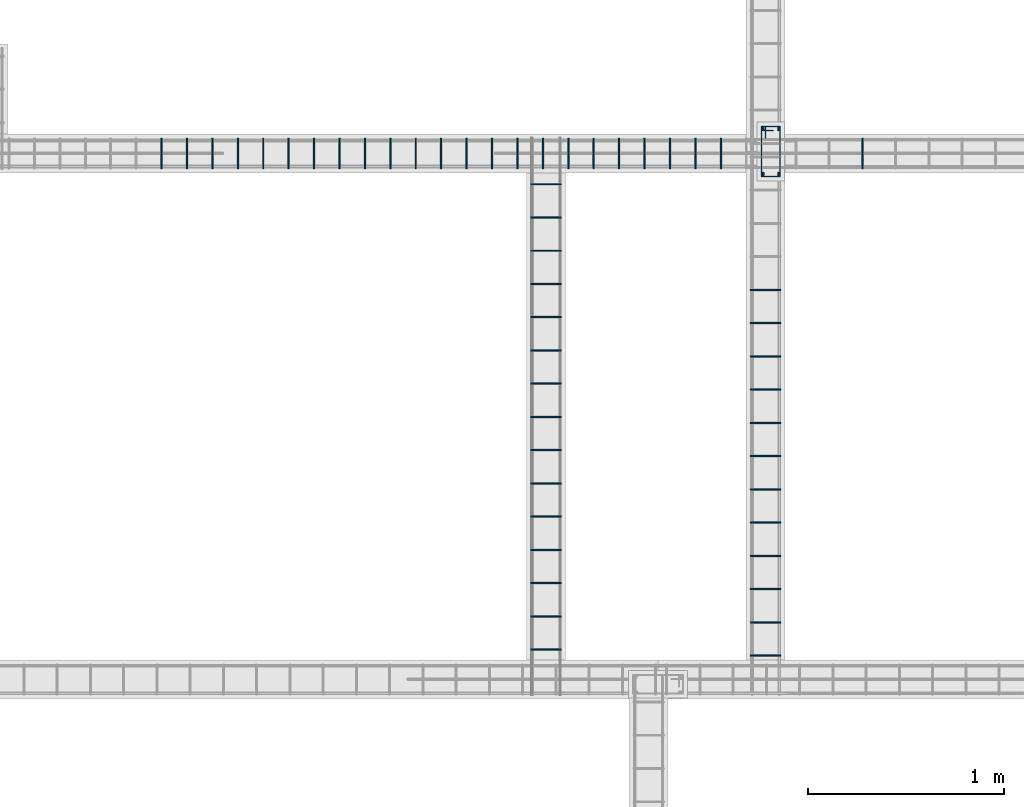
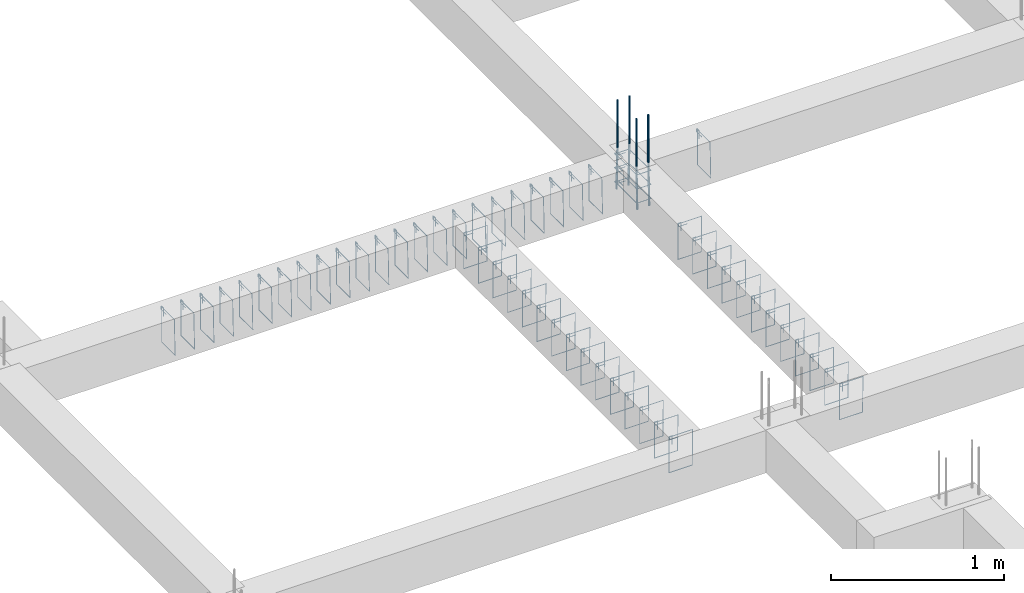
# One storey, part 118 of 150: 58 reinforcing bars.
"""IFC4 building model written with IfcOpenShell, lengths in centimetres."""

from ifc_helpers import new_model, entity, si_unit, derived_unit, frame, origin_with_axes, place, context, project, spatial, source, transform, mapped, element, save


model = new_model("IFC4")

# Units and contexts
model_context = context("Model", 3, precision=1e-05, world=origin_with_axes(), identifier="Body")
ifc_project = project(units=[si_unit("LENGTHUNIT", "METRE", prefix="CENTI"), si_unit("VOLUMEUNIT", "CUBIC_METRE"), si_unit("AREAUNIT", "SQUARE_METRE"), si_unit("POWERUNIT", "WATT"), si_unit("LUMINOUSFLUXUNIT", "LUMEN"), si_unit("ELECTRICCURRENTUNIT", "AMPERE"), si_unit("PRESSUREUNIT", "PASCAL", prefix="KILO"), si_unit("MASSUNIT", "GRAM", prefix="KILO"), si_unit("PLANEANGLEUNIT", "RADIAN"), derived_unit("VOLUMETRICFLOWRATEUNIT", [(si_unit("LENGTHUNIT", "METRE"), 3), (si_unit("TIMEUNIT", "SECOND"), -1)])], contexts=[model_context])

# Site, building, storey
site_placement = place(None, frame((-4000.0, 0.0, 0.0), z_axis=(0.0, 0.0, 1.0), x_axis=(1.0, 0.0, 0.0)))
site = spatial("IfcSite", under=ifc_project, at=site_placement, Name="PADRÃO")
building_placement = place(site_placement, frame((0.0, 0.0, -14.0)))
building = spatial("IfcBuilding", under=site, at=building_placement, Name="CRECHE PRÉ-ESCOLA TIPO 2")
placement = place(building_placement, origin_with_axes())
storey_placement = place(placement, frame((0.0, 0.0, 30.0), z_axis=(0.0, 0.0, 1.0), x_axis=(1.0, 0.0, 0.0)))
storey = spatial("IfcBuildingStorey", under=building, at=storey_placement, Name="VIGA BALDRAME", CompositionType="ELEMENT", Elevation=16.0)

# Reinforcing bars
shared_shape_1 = source(origin_with_axes(), model_context, "Body", "AdvancedSweptSolid", [
    entity("IfcSweptDiskSolid", entity("IfcCompositeCurve", [entity("IfcCompositeCurveSegment", "CONTINUOUS", True, entity("IfcPolyline", [entity("IfcCartesianPoint", [4.25, 21.75, 0.0]), entity("IfcCartesianPoint", [4.25, 27.75, 0.0])])), entity("IfcCompositeCurveSegment", "CONTINUOUS", True, entity("IfcPolyline", [entity("IfcCartesianPoint", [4.25, 27.75, 0.0]), entity("IfcCartesianPoint", [2.25, 27.75, 0.0])])), entity("IfcCompositeCurveSegment", "CONTINUOUS", True, entity("IfcPolyline", [entity("IfcCartesianPoint", [2.25, 27.75, 0.0]), entity("IfcCartesianPoint", [2.25, 2.25, 0.0])])), entity("IfcCompositeCurveSegment", "CONTINUOUS", True, entity("IfcPolyline", [entity("IfcCartesianPoint", [2.25, 2.25, 0.0]), entity("IfcCartesianPoint", [11.75, 2.25, 0.0])])), entity("IfcCompositeCurveSegment", "CONTINUOUS", True, entity("IfcPolyline", [entity("IfcCartesianPoint", [11.75, 2.25, 0.0]), entity("IfcCartesianPoint", [11.75, 27.75, -0.5])])), entity("IfcCompositeCurveSegment", "CONTINUOUS", True, entity("IfcPolyline", [entity("IfcCartesianPoint", [11.75, 27.75, -0.5]), entity("IfcCartesianPoint", [2.25, 27.75, -0.5])])), entity("IfcCompositeCurveSegment", "CONTINUOUS", True, entity("IfcPolyline", [entity("IfcCartesianPoint", [2.25, 27.75, -0.5]), entity("IfcCartesianPoint", [2.25, 25.75, -0.5])])), entity("IfcCompositeCurveSegment", "CONTINUOUS", True, entity("IfcPolyline", [entity("IfcCartesianPoint", [2.25, 25.75, -0.5]), entity("IfcCartesianPoint", [8.25, 25.75, -0.5])]))], False), 0.25),
])
for number, where, z_axis, x_axis, name in (
    (1, (1111.72, 3455.0, -5.0), (0.0, 0.0, 1.0), (1.0, 0.0, 0.0), "P40 - Estribo"),
    (2, (1111.72, 3455.0, -25.0), (0.0, 0.0, 1.0), (1.0, 0.0, 0.0), "P40 - Estribo"),
    (3, (1111.72, 3455.0, -15.0), (0.0, 0.0, 1.0), (1.0, 0.0, 0.0), "P40 - Estribo"),
):
    element("IfcReinforcingBar", number, at=place(storey_placement, frame(where, z_axis=z_axis, x_axis=x_axis)), inside=storey, Name=name, BarLength=0.0, CrossSectionArea=1.9634954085e-05, NominalDiameter=0.5, PredefinedType="MAIN", context=model_context, shape_type="MappedRepresentation", body=[
        mapped(shared_shape_1, transform((0.0, 0.0, 0.0), scale=1.0)),
    ])
shared_shape_2 = source(origin_with_axes(), model_context, "Body", "AdvancedSweptSolid", [
    entity("IfcSweptDiskSolid", entity("IfcCompositeCurve", [entity("IfcCompositeCurveSegment", "CONTINUOUS", True, entity("IfcPolyline", [entity("IfcCartesianPoint", [2.0, -6.0, 0.0]), entity("IfcCartesianPoint", [2.0, 0.0, 0.0])])), entity("IfcCompositeCurveSegment", "CONTINUOUS", True, entity("IfcPolyline", [entity("IfcCartesianPoint", [2.0, 0.0, 0.0]), entity("IfcCartesianPoint", [0.0, 0.0, 0.0])])), entity("IfcCompositeCurveSegment", "CONTINUOUS", True, entity("IfcPolyline", [entity("IfcCartesianPoint", [0.0, 0.0, 0.0]), entity("IfcCartesianPoint", [0.0, -25.5, 0.0])])), entity("IfcCompositeCurveSegment", "CONTINUOUS", True, entity("IfcPolyline", [entity("IfcCartesianPoint", [0.0, -25.5, 0.0]), entity("IfcCartesianPoint", [15.5, -25.5, 0.0])])), entity("IfcCompositeCurveSegment", "CONTINUOUS", True, entity("IfcPolyline", [entity("IfcCartesianPoint", [15.5, -25.5, 0.0]), entity("IfcCartesianPoint", [15.5, 0.0, 0.5])])), entity("IfcCompositeCurveSegment", "CONTINUOUS", True, entity("IfcPolyline", [entity("IfcCartesianPoint", [15.5, 0.0, 0.5]), entity("IfcCartesianPoint", [0.0, 0.0, 0.5])])), entity("IfcCompositeCurveSegment", "CONTINUOUS", True, entity("IfcPolyline", [entity("IfcCartesianPoint", [0.0, 0.0, 0.5]), entity("IfcCartesianPoint", [0.0, -2.0, 0.5])])), entity("IfcCompositeCurveSegment", "CONTINUOUS", True, entity("IfcPolyline", [entity("IfcCartesianPoint", [0.0, -2.0, 0.5]), entity("IfcCartesianPoint", [6.0, -2.0, 0.5])]))], False), 0.25),
])
for number, where, z_axis, x_axis, name in (
    (4, (995.98, 3215.51, -2.25), (0.0, -1.0, 0.0), (1.0, 0.0, 0.0), "V179 - Estribo"),
    (5, (995.98, 3249.51, -2.25), (0.0, -1.0, 0.0), (1.0, 0.0, 0.0), "V179 - Estribo"),
    (6, (995.98, 3453.51, -2.25), (0.0, -1.0, 0.0), (1.0, 0.0, 0.0), "V179 - Estribo"),
    (7, (995.98, 3436.51, -2.25), (0.0, -1.0, 0.0), (1.0, 0.0, 0.0), "V179 - Estribo"),
    (8, (995.98, 3419.51, -2.25), (0.0, -1.0, 0.0), (1.0, 0.0, 0.0), "V179 - Estribo"),
    (9, (995.98, 3402.51, -2.25), (0.0, -1.0, 0.0), (1.0, 0.0, 0.0), "V179 - Estribo"),
    (10, (995.98, 3385.51, -2.25), (0.0, -1.0, 0.0), (1.0, 0.0, 0.0), "V179 - Estribo"),
    (11, (995.98, 3368.51, -2.25), (0.0, -1.0, 0.0), (1.0, 0.0, 0.0), "V179 - Estribo"),
    (12, (995.98, 3351.51, -2.25), (0.0, -1.0, 0.0), (1.0, 0.0, 0.0), "V179 - Estribo"),
    (13, (995.98, 3334.51, -2.25), (0.0, -1.0, 0.0), (1.0, 0.0, 0.0), "V179 - Estribo"),
    (14, (995.98, 3317.51, -2.25), (0.0, -1.0, 0.0), (1.0, 0.0, 0.0), "V179 - Estribo"),
    (15, (995.98, 3300.51, -2.25), (0.0, -1.0, 0.0), (1.0, 0.0, 0.0), "V179 - Estribo"),
    (16, (995.98, 3283.51, -2.25), (0.0, -1.0, 0.0), (1.0, 0.0, 0.0), "V179 - Estribo"),
    (17, (995.98, 3266.51, -2.25), (0.0, -1.0, 0.0), (1.0, 0.0, 0.0), "V179 - Estribo"),
    (18, (995.98, 3232.51, -2.25), (0.0, -1.0, 0.0), (1.0, 0.0, 0.0), "V179 - Estribo"),
):
    element("IfcReinforcingBar", number, at=place(storey_placement, frame(where, z_axis=z_axis, x_axis=x_axis)), inside=storey, Name=name, BarLength=0.0, CrossSectionArea=1.9634954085e-05, NominalDiameter=0.5, PredefinedType="MAIN", context=model_context, shape_type="MappedRepresentation", body=[
        mapped(shared_shape_2, transform((0.0, 0.0, 0.0), scale=1.0)),
    ])
shared_shape_3 = source(origin_with_axes(), model_context, "Body", "AdvancedSweptSolid", [
    entity("IfcSweptDiskSolid", entity("IfcCompositeCurve", [entity("IfcCompositeCurveSegment", "CONTINUOUS", True, entity("IfcPolyline", [entity("IfcCartesianPoint", [2.0, -6.0, 0.0]), entity("IfcCartesianPoint", [2.0, 0.0, 0.0])])), entity("IfcCompositeCurveSegment", "CONTINUOUS", True, entity("IfcPolyline", [entity("IfcCartesianPoint", [2.0, 0.0, 0.0]), entity("IfcCartesianPoint", [0.0, 0.0, 0.0])])), entity("IfcCompositeCurveSegment", "CONTINUOUS", True, entity("IfcPolyline", [entity("IfcCartesianPoint", [0.0, 0.0, 0.0]), entity("IfcCartesianPoint", [0.0, -25.5, 0.0])])), entity("IfcCompositeCurveSegment", "CONTINUOUS", True, entity("IfcPolyline", [entity("IfcCartesianPoint", [0.0, -25.5, 0.0]), entity("IfcCartesianPoint", [15.5, -25.5, 0.0])])), entity("IfcCompositeCurveSegment", "CONTINUOUS", True, entity("IfcPolyline", [entity("IfcCartesianPoint", [15.5, -25.5, 0.0]), entity("IfcCartesianPoint", [15.5, 0.0, 0.5])])), entity("IfcCompositeCurveSegment", "CONTINUOUS", True, entity("IfcPolyline", [entity("IfcCartesianPoint", [15.5, 0.0, 0.5]), entity("IfcCartesianPoint", [0.0, 0.0, 0.5])])), entity("IfcCompositeCurveSegment", "CONTINUOUS", True, entity("IfcPolyline", [entity("IfcCartesianPoint", [0.0, 0.0, 0.5]), entity("IfcCartesianPoint", [0.0, -2.0, 0.5])])), entity("IfcCompositeCurveSegment", "CONTINUOUS", True, entity("IfcPolyline", [entity("IfcCartesianPoint", [0.0, -2.0, 0.5]), entity("IfcCartesianPoint", [6.0, -2.0, 0.5])]))], False), 0.25),
])
for number, where, z_axis, x_axis, name in (
    (19, (1093.36, 3476.75, -2.25), (-1.0, 0.0, 0.0), (0.0, -1.0, 0.0), "V110 - Estribo"),
    (20, (1080.36, 3476.75, -2.25), (-1.0, 0.0, 0.0), (0.0, -1.0, 0.0), "V110 - Estribo"),
    (21, (1067.36, 3476.75, -2.25), (-1.0, 0.0, 0.0), (0.0, -1.0, 0.0), "V110 - Estribo"),
    (22, (1054.36, 3476.75, -2.25), (-1.0, 0.0, 0.0), (0.0, -1.0, 0.0), "V110 - Estribo"),
    (23, (1041.36, 3476.75, -2.25), (-1.0, 0.0, 0.0), (0.0, -1.0, 0.0), "V110 - Estribo"),
    (24, (1028.36, 3476.75, -2.25), (-1.0, 0.0, 0.0), (0.0, -1.0, 0.0), "V110 - Estribo"),
    (25, (1015.36, 3476.75, -2.25), (-1.0, 0.0, 0.0), (0.0, -1.0, 0.0), "V110 - Estribo"),
    (26, (1002.36, 3476.75, -2.25), (-1.0, 0.0, 0.0), (0.0, -1.0, 0.0), "V110 - Estribo"),
    (27, (989.36, 3476.75, -2.25), (-1.0, 0.0, 0.0), (0.0, -1.0, 0.0), "V110 - Estribo"),
    (28, (976.36, 3476.75, -2.25), (-1.0, 0.0, 0.0), (0.0, -1.0, 0.0), "V110 - Estribo"),
    (29, (963.36, 3476.75, -2.25), (-1.0, 0.0, 0.0), (0.0, -1.0, 0.0), "V110 - Estribo"),
    (30, (950.36, 3476.75, -2.25), (-1.0, 0.0, 0.0), (0.0, -1.0, 0.0), "V110 - Estribo"),
    (31, (937.36, 3476.75, -2.25), (-1.0, 0.0, 0.0), (0.0, -1.0, 0.0), "V110 - Estribo"),
    (32, (924.36, 3476.75, -2.25), (-1.0, 0.0, 0.0), (0.0, -1.0, 0.0), "V110 - Estribo"),
    (33, (911.36, 3476.75, -2.25), (-1.0, 0.0, 0.0), (0.0, -1.0, 0.0), "V110 - Estribo"),
    (34, (898.36, 3476.75, -2.25), (-1.0, 0.0, 0.0), (0.0, -1.0, 0.0), "V110 - Estribo"),
    (35, (885.36, 3476.75, -2.25), (-1.0, 0.0, 0.0), (0.0, -1.0, 0.0), "V110 - Estribo"),
    (36, (872.36, 3476.75, -2.25), (-1.0, 0.0, 0.0), (0.0, -1.0, 0.0), "V110 - Estribo"),
    (37, (859.36, 3476.75, -2.25), (-1.0, 0.0, 0.0), (0.0, -1.0, 0.0), "V110 - Estribo"),
    (38, (846.36, 3476.75, -2.25), (-1.0, 0.0, 0.0), (0.0, -1.0, 0.0), "V110 - Estribo"),
    (39, (833.36, 3476.75, -2.25), (-1.0, 0.0, 0.0), (0.0, -1.0, 0.0), "V110 - Estribo"),
    (40, (820.36, 3476.75, -2.25), (-1.0, 0.0, 0.0), (0.0, -1.0, 0.0), "V110 - Estribo"),
    (41, (807.36, 3476.75, -2.25), (-1.0, 0.0, 0.0), (0.0, -1.0, 0.0), "V110 - Estribo"),
):
    element("IfcReinforcingBar", number, at=place(storey_placement, frame(where, z_axis=z_axis, x_axis=x_axis)), inside=storey, Name=name, BarLength=0.0, CrossSectionArea=1.9634954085e-05, NominalDiameter=0.5, PredefinedType="MAIN", context=model_context, shape_type="MappedRepresentation", body=[
        mapped(shared_shape_3, transform((0.0, 0.0, 0.0), scale=1.0)),
    ])
shared_shape_4 = source(origin_with_axes(), model_context, "Body", "AdvancedSweptSolid", [
    entity("IfcSweptDiskSolid", entity("IfcCompositeCurve", [entity("IfcCompositeCurveSegment", "CONTINUOUS", True, entity("IfcPolyline", [entity("IfcCartesianPoint", [2.0, -6.0, 0.0]), entity("IfcCartesianPoint", [2.0, 0.0, 0.0])])), entity("IfcCompositeCurveSegment", "CONTINUOUS", True, entity("IfcPolyline", [entity("IfcCartesianPoint", [2.0, 0.0, 0.0]), entity("IfcCartesianPoint", [0.0, 0.0, 0.0])])), entity("IfcCompositeCurveSegment", "CONTINUOUS", True, entity("IfcPolyline", [entity("IfcCartesianPoint", [0.0, 0.0, 0.0]), entity("IfcCartesianPoint", [0.0, -25.5, 0.0])])), entity("IfcCompositeCurveSegment", "CONTINUOUS", True, entity("IfcPolyline", [entity("IfcCartesianPoint", [0.0, -25.5, 0.0]), entity("IfcCartesianPoint", [15.5, -25.5, 0.0])])), entity("IfcCompositeCurveSegment", "CONTINUOUS", True, entity("IfcPolyline", [entity("IfcCartesianPoint", [15.5, -25.5, 0.0]), entity("IfcCartesianPoint", [15.5, 0.0, 0.5])])), entity("IfcCompositeCurveSegment", "CONTINUOUS", True, entity("IfcPolyline", [entity("IfcCartesianPoint", [15.5, 0.0, 0.5]), entity("IfcCartesianPoint", [0.0, 0.0, 0.5])])), entity("IfcCompositeCurveSegment", "CONTINUOUS", True, entity("IfcPolyline", [entity("IfcCartesianPoint", [0.0, 0.0, 0.5]), entity("IfcCartesianPoint", [0.0, -2.0, 0.5])])), entity("IfcCompositeCurveSegment", "CONTINUOUS", True, entity("IfcPolyline", [entity("IfcCartesianPoint", [0.0, -2.0, 0.5]), entity("IfcCartesianPoint", [6.0, -2.0, 0.5])]))], False), 0.25),
])
reinforcing_bar_1_placement = place(storey_placement, frame((1165.78, 3476.75, -2.25), z_axis=(-1.0, 0.0, 0.0), x_axis=(0.0, -1.0, 0.0)))
element("IfcReinforcingBar", 42, at=reinforcing_bar_1_placement, inside=storey, Name="V110 - Estribo", BarLength=0.0, CrossSectionArea=1.9634954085e-05, NominalDiameter=0.5, PredefinedType="MAIN", context=model_context, shape_type="MappedRepresentation", body=[
    mapped(shared_shape_4, transform((0.0, 0.0, 0.0), scale=1.0)),
])
shared_shape_5 = source(origin_with_axes(), model_context, "Body", "AdvancedSweptSolid", [
    entity("IfcSweptDiskSolid", entity("IfcCompositeCurve", [entity("IfcCompositeCurveSegment", "CONTINUOUS", True, entity("IfcPolyline", [entity("IfcCartesianPoint", [2.0, -6.0, 0.0]), entity("IfcCartesianPoint", [2.0, 0.0, 0.0])])), entity("IfcCompositeCurveSegment", "CONTINUOUS", True, entity("IfcPolyline", [entity("IfcCartesianPoint", [2.0, 0.0, 0.0]), entity("IfcCartesianPoint", [0.0, 0.0, 0.0])])), entity("IfcCompositeCurveSegment", "CONTINUOUS", True, entity("IfcPolyline", [entity("IfcCartesianPoint", [0.0, 0.0, 0.0]), entity("IfcCartesianPoint", [0.0, -25.5, 0.0])])), entity("IfcCompositeCurveSegment", "CONTINUOUS", True, entity("IfcPolyline", [entity("IfcCartesianPoint", [0.0, -25.5, 0.0]), entity("IfcCartesianPoint", [15.5, -25.5, 0.0])])), entity("IfcCompositeCurveSegment", "CONTINUOUS", True, entity("IfcPolyline", [entity("IfcCartesianPoint", [15.5, -25.5, 0.0]), entity("IfcCartesianPoint", [15.5, 0.0, 0.5])])), entity("IfcCompositeCurveSegment", "CONTINUOUS", True, entity("IfcPolyline", [entity("IfcCartesianPoint", [15.5, 0.0, 0.5]), entity("IfcCartesianPoint", [0.0, 0.0, 0.5])])), entity("IfcCompositeCurveSegment", "CONTINUOUS", True, entity("IfcPolyline", [entity("IfcCartesianPoint", [0.0, 0.0, 0.5]), entity("IfcCartesianPoint", [0.0, -2.0, 0.5])])), entity("IfcCompositeCurveSegment", "CONTINUOUS", True, entity("IfcPolyline", [entity("IfcCartesianPoint", [0.0, -2.0, 0.5]), entity("IfcCartesianPoint", [6.0, -2.0, 0.5])]))], False), 0.25),
])
for number, where, z_axis, x_axis, name in (
    (43, (1108.25, 3280.51, -2.25), (0.0, -1.0, 0.0), (1.0, 0.0, 0.0), "V185 - Estribo"),
    (44, (1108.25, 3212.51, -2.25), (0.0, -1.0, 0.0), (1.0, 0.0, 0.0), "V185 - Estribo"),
    (45, (1108.25, 3229.51, -2.25), (0.0, -1.0, 0.0), (1.0, 0.0, 0.0), "V185 - Estribo"),
    (46, (1108.25, 3246.51, -2.25), (0.0, -1.0, 0.0), (1.0, 0.0, 0.0), "V185 - Estribo"),
    (47, (1108.25, 3263.51, -2.25), (0.0, -1.0, 0.0), (1.0, 0.0, 0.0), "V185 - Estribo"),
    (48, (1108.25, 3399.51, -2.25), (0.0, -1.0, 0.0), (1.0, 0.0, 0.0), "V185 - Estribo"),
    (49, (1108.25, 3382.51, -2.25), (0.0, -1.0, 0.0), (1.0, 0.0, 0.0), "V185 - Estribo"),
    (50, (1108.25, 3365.51, -2.25), (0.0, -1.0, 0.0), (1.0, 0.0, 0.0), "V185 - Estribo"),
    (51, (1108.25, 3348.51, -2.25), (0.0, -1.0, 0.0), (1.0, 0.0, 0.0), "V185 - Estribo"),
    (52, (1108.25, 3331.51, -2.25), (0.0, -1.0, 0.0), (1.0, 0.0, 0.0), "V185 - Estribo"),
    (53, (1108.25, 3297.51, -2.25), (0.0, -1.0, 0.0), (1.0, 0.0, 0.0), "V185 - Estribo"),
    (54, (1108.25, 3314.51, -2.25), (0.0, -1.0, 0.0), (1.0, 0.0, 0.0), "V185 - Estribo"),
):
    element("IfcReinforcingBar", number, at=place(storey_placement, frame(where, z_axis=z_axis, x_axis=x_axis)), inside=storey, Name=name, BarLength=0.0, CrossSectionArea=1.9634954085e-05, NominalDiameter=0.5, PredefinedType="MAIN", context=model_context, shape_type="MappedRepresentation", body=[
        mapped(shared_shape_5, transform((0.0, 0.0, 0.0), scale=1.0)),
    ])
reinforcing_bar_2_placement = place(storey_placement, frame((1122.72, 3481.49986122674, 33.3573001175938), z_axis=(0.0, 0.0, 1.0), x_axis=(1.0, 0.0, 0.0)))
element("IfcReinforcingBar", 55, at=reinforcing_bar_2_placement, inside=storey, Name="P40 - Longitudinal", BarLength=0.0, CrossSectionArea=7.853981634e-05, NominalDiameter=1.0, PredefinedType="MAIN", context=model_context, shape_type="AdvancedSweptSolid", body=[
    entity("IfcSweptDiskSolid", entity("IfcCompositeCurve", [entity("IfcCompositeCurveSegment", "CONTINUOUS", True, entity("IfcPolyline", [entity("IfcCartesianPoint", [0.0, 0.500138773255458, -63.3573001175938]), entity("IfcCartesianPoint", [0.0, -0.499861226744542, -33.3573001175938])])), entity("IfcCompositeCurveSegment", "CONTINUOUS", True, entity("IfcPolyline", [entity("IfcCartesianPoint", [0.0, -0.499861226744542, -33.3573001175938]), entity("IfcCartesianPoint", [0.0, -0.499861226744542, 0.0])]))], False), 0.5),
])
for number, where, z_axis, x_axis, name in (
    (56, (1122.72, 3458.50013877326, 33.3573001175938), (0.0, 0.0, 1.0), (1.0, 0.0, 0.0), "P40 - Longitudinal"),
    (57, (1114.72, 3458.50013877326, 33.3573001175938), (0.0, 0.0, 1.0), (1.0, 0.0, 0.0), "P40 - Longitudinal"),
):
    element("IfcReinforcingBar", number, at=place(storey_placement, frame(where, z_axis=z_axis, x_axis=x_axis)), inside=storey, Name=name, BarLength=0.0, CrossSectionArea=7.853981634e-05, NominalDiameter=1.0, PredefinedType="MAIN", context=model_context, shape_type="AdvancedSweptSolid", body=[
        entity("IfcSweptDiskSolid", entity("IfcCompositeCurve", [entity("IfcCompositeCurveSegment", "CONTINUOUS", True, entity("IfcPolyline", [entity("IfcCartesianPoint", [0.0, -0.500138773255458, -63.3573001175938]), entity("IfcCartesianPoint", [0.0, 0.499861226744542, -33.3573001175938])])), entity("IfcCompositeCurveSegment", "CONTINUOUS", True, entity("IfcPolyline", [entity("IfcCartesianPoint", [0.0, 0.499861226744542, -33.3573001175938]), entity("IfcCartesianPoint", [0.0, 0.499861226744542, 0.0])]))], False), 0.5),
    ])
reinforcing_bar_3_placement = place(storey_placement, frame((1114.72, 3481.49986122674, 33.3573001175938), z_axis=(0.0, 0.0, 1.0), x_axis=(1.0, 0.0, 0.0)))
element("IfcReinforcingBar", 58, at=reinforcing_bar_3_placement, inside=storey, Name="P40 - Longitudinal", BarLength=0.0, CrossSectionArea=7.853981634e-05, NominalDiameter=1.0, PredefinedType="MAIN", context=model_context, shape_type="AdvancedSweptSolid", body=[
    entity("IfcSweptDiskSolid", entity("IfcCompositeCurve", [entity("IfcCompositeCurveSegment", "CONTINUOUS", True, entity("IfcPolyline", [entity("IfcCartesianPoint", [0.0, 0.500138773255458, -63.3573001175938]), entity("IfcCartesianPoint", [0.0, -0.499861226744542, -33.3573001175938])])), entity("IfcCompositeCurveSegment", "CONTINUOUS", True, entity("IfcPolyline", [entity("IfcCartesianPoint", [0.0, -0.499861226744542, -33.3573001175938]), entity("IfcCartesianPoint", [0.0, -0.499861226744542, 0.0])]))], False), 0.5),
])

save(model, "model.ifc")
